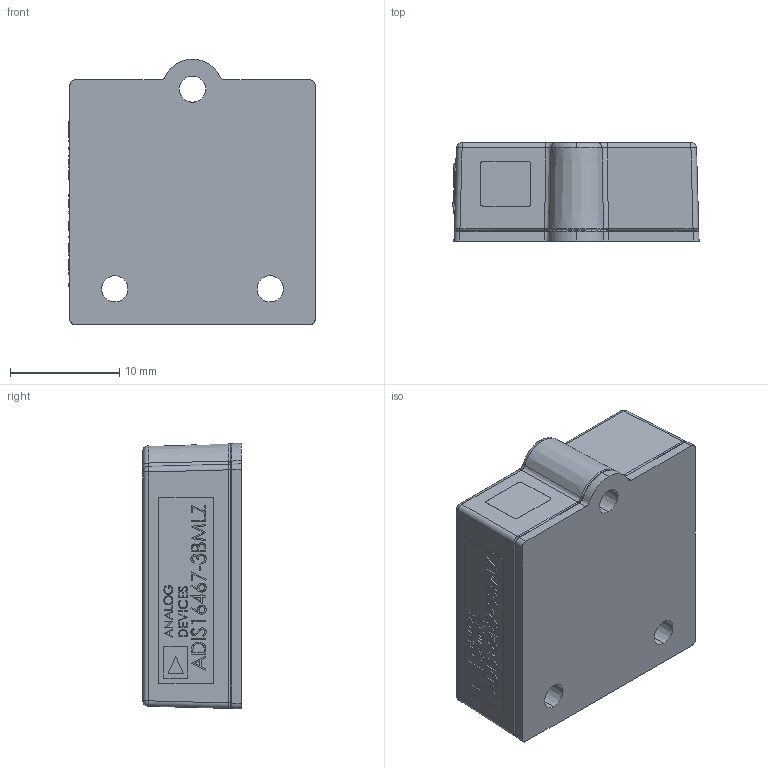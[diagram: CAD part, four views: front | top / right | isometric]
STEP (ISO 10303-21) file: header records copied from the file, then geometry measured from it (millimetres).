
FILE_DESCRIPTION (( 'STEP AP214' ), '1' );
FILE_NAME ('ADIS16467-3BMLZ.STEP', '2017-11-30T21:00:37', ( '' ), ( '' ), 'SwSTEP 2.0', 'SolidWorks 2016', '' );
FILE_SCHEMA (( 'AUTOMOTIVE_DESIGN' ));
Length unit declared in the file: millimetre
Products named in the file (5): ADIS16460_Base rev4_HRB2_No Skirt_CDS_3-17-15; ADIS16467-3BMLZ; ADIS16460_Lid Rev5_HRB2_No-Skirt_CDS_3-17-16; FTMH-Conn-Stacker_14Pin; ADiS16460 Assembly_HRB2_CDS_3-17-16
Assembly tree (4 placements, depth 3):
  ADIS16467-3BMLZ
    ADIS16460_Base rev4_HRB2_No Skirt_CDS_3-17-15
    ADiS16460 Assembly_HRB2_CDS_3-17-16
      FTMH-Conn-Stacker_14Pin
    ADIS16460_Lid Rev5_HRB2_No-Skirt_CDS_3-17-16
Bounding box: 22.49 x 9 x 24.3 mm (x, y, z)
Volume: 2281.6 mm3; surface area: 4099.7 mm2
Topology: 32 solids, 34 shells, 1488 faces, 4007 edges, 2587 vertices
Faces by surface type: plane 957, bspline 318, cylinder 119, torus 38, cone 38, sphere 18
Entity records: 74189 total; most frequent: CARTESIAN_POINT 25591, ORIENTED_EDGE 7722, DIRECTION 6028, EDGE_CURVE 3987, LINE 2904, VECTOR 2904, VERTEX_POINT 2583, EDGE_LOOP 1632
